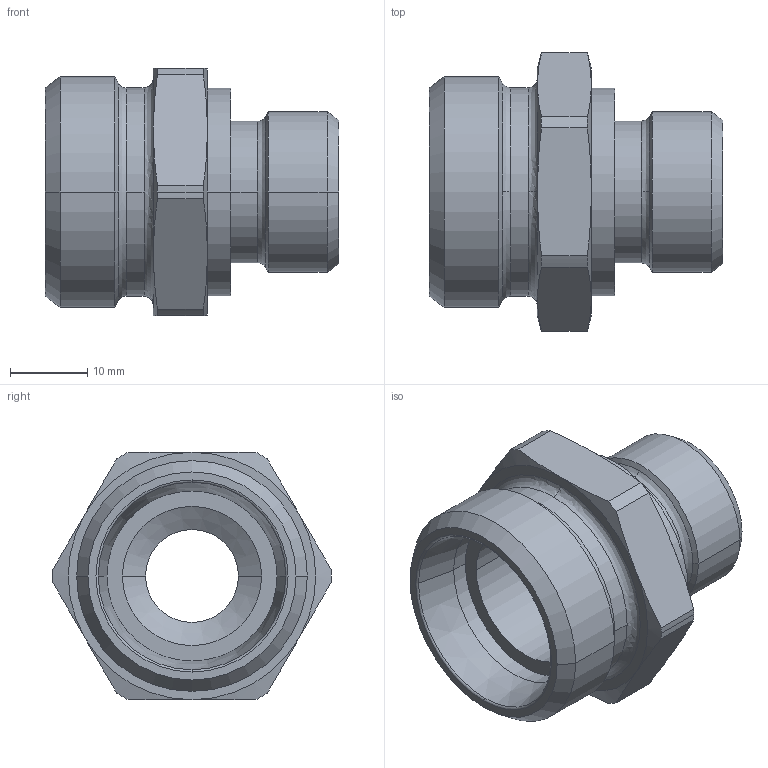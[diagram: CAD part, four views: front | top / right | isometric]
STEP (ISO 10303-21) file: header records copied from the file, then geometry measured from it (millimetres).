
FILE_DESCRIPTION((''),'2;1');
FILE_NAME('100549.stp','2007-10-30T14:22:52',(''),(''),'AutoCAD STEP 2000i','AutoCAD 2000i',', , ');
FILE_SCHEMA(('CONFIG_CONTROL_DESIGN'));
Length unit declared in the file: millimetre
Products named in the file (2): 100549.0; CHIAVE SMUSSATA#0
Assembly tree (1 placements, depth 2):
  100549.0
    CHIAVE SMUSSATA#0
Bounding box: 38 x 36 x 32 mm (x, y, z)
Volume: 12877.6 mm3; surface area: 6636.4 mm2
Topology: 1 solids, 1 shells, 79 faces, 193 edges, 121 vertices
Faces by surface type: cylinder 26, cone 26, plane 13, bspline 12, torus 2
Entity records: 2935 total; most frequent: CARTESIAN_POINT 971, DIRECTION 430, ORIENTED_EDGE 386, EDGE_CURVE 193, AXIS2_PLACEMENT_3D 192, CIRCLE 123, VERTEX_POINT 121, EDGE_LOOP 86
